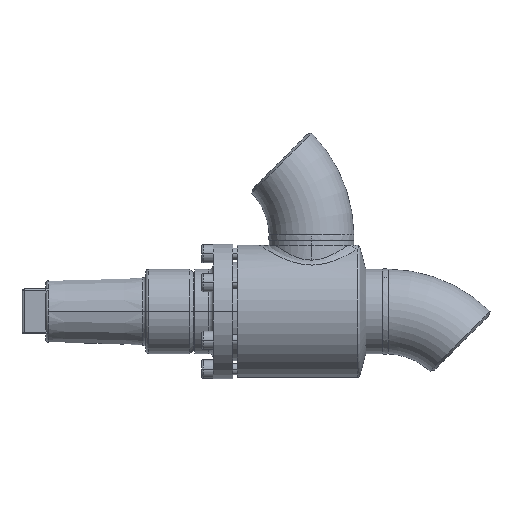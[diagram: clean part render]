
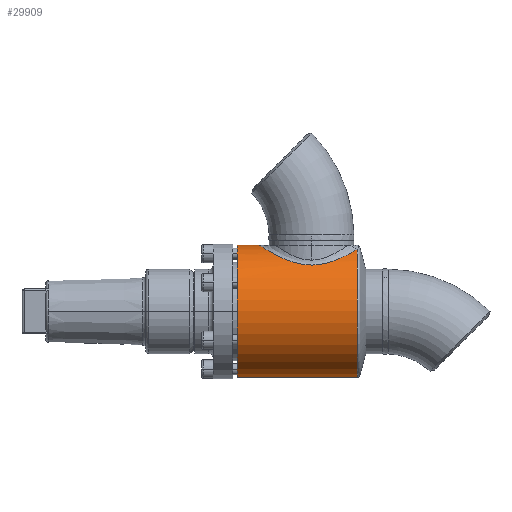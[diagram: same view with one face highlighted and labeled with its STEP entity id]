
A CAD part, left-side view. The second image highlights one B-rep face of the part: STEP entity #29909.
In plain terms, the highlighted cylindrical face has radius 47 mm (diameter 94 mm), a partial arc.
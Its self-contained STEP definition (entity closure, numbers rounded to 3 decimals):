
#33225 = CIRCLE ( 'NONE', #33226, 47. ) ;
#33226 = AXIS2_PLACEMENT_3D ( 'NONE', #33227, #33228, #33229 ) ;
#33227 = CARTESIAN_POINT ( 'NONE',  ( 0., -85.446, 0. ) ) ;
#33228 = DIRECTION ( 'NONE',  ( 0., 1., 0. ) ) ;
#33229 = DIRECTION ( 'NONE',  ( 0., 0., -1. ) ) ;
#33414 = CARTESIAN_POINT ( 'NONE',  ( -16.073, -85.446, 44.166 ) ) ;
#33834 = CARTESIAN_POINT ( 'NONE',  ( 0., -16., 47. ) ) ;
#34036 = LINE ( 'NONE', #34037, #34038 ) ;
#34037 = CARTESIAN_POINT ( 'NONE',  ( 0., -91., 47. ) ) ;
#34038 = VECTOR ( 'NONE', #34039, 1000. ) ;
#34039 = DIRECTION ( 'NONE',  ( 0., 1., 0. ) ) ;
#34150 = CARTESIAN_POINT ( 'NONE',  ( 0., -85.446, -47. ) ) ;
#19542 = EDGE_CURVE ( 'NONE', #4612, #27298, #21054, .T. ) ;
#4105 = EDGE_CURVE ( 'NONE', #31365, #29331, #23596, .T. ) ;
#4612 = VERTEX_POINT ( 'NONE', #33414 ) ;
#21054 = B_SPLINE_CURVE_WITH_KNOTS ( 'NONE', 3,
 ( #21055, #21056, #21057, #21058, #21059, #21060, #21096, #21097, #21098, #21099, #21100, #21101, #21102, #21103, #21104, #21105, #21106, #21107, #21108, #21109, #21110, #21111, #21145, #21146, #21147, #21148, #21149, #21150, #21151, #21152, #21153, #21154, #21155, #21156, #21157, #21158, #21159, #21160, #21193, #21194, #21195, #21196, #21197, #21198, #21199, #21200, #21201, #21202, #21203, #21204, #21205, #21206, #21207, #21208, #21241, #21242, #21243, #21244, #21245, #21246, #21247, #21248 ),
 .UNSPECIFIED., .F., .F.,
 ( 4, 2, 2, 2, 2, 2, 2, 2, 2, 2, 2, 2, 2, 2, 2, 2, 2, 2, 2, 2, 2, 2, 2, 2, 2, 2, 2, 2, 2, 2, 4 ),
 ( 0.017, 0.023, 0.026, 0.029, 0.035, 0.039, 0.04, 0.042, 0.048, 0.051, 0.052, 0.054, 0.06, 0.063, 0.066, 0.069, 0.072, 0.078, 0.081, 0.083, 0.084, 0.09, 0.093, 0.095, 0.096, 0.103, 0.106, 0.107, 0.109, 0.112, 0.115 ),
 .UNSPECIFIED. ) ;
#21055 = CARTESIAN_POINT ( 'NONE',  ( -16.073, -85.446, 44.166 ) ) ;
#21056 = CARTESIAN_POINT ( 'NONE',  ( -17.749, -84.43, 43.556 ) ) ;
#21057 = CARTESIAN_POINT ( 'NONE',  ( -19.293, -83.29, 42.887 ) ) ;
#21058 = CARTESIAN_POINT ( 'NONE',  ( -21.444, -81.41, 41.831 ) ) ;
#21059 = CARTESIAN_POINT ( 'NONE',  ( -22.133, -80.755, 41.469 ) ) ;
#21060 = CARTESIAN_POINT ( 'NONE',  ( -23.459, -79.389, 40.734 ) ) ;
#21096 = CARTESIAN_POINT ( 'NONE',  ( -24.096, -78.676, 40.359 ) ) ;
#21097 = CARTESIAN_POINT ( 'NONE',  ( -25.907, -76.48, 39.24 ) ) ;
#21098 = CARTESIAN_POINT ( 'NONE',  ( -26.989, -74.936, 38.497 ) ) ;
#21099 = CARTESIAN_POINT ( 'NONE',  ( -28.44, -72.491, 37.424 ) ) ;
#21100 = CARTESIAN_POINT ( 'NONE',  ( -28.894, -71.655, 37.073 ) ) ;
#21101 = CARTESIAN_POINT ( 'NONE',  ( -29.533, -70.366, 36.563 ) ) ;
#21102 = CARTESIAN_POINT ( 'NONE',  ( -29.739, -69.93, 36.396 ) ) ;
#21103 = CARTESIAN_POINT ( 'NONE',  ( -30.137, -69.047, 36.067 ) ) ;
#21104 = CARTESIAN_POINT ( 'NONE',  ( -30.328, -68.599, 35.906 ) ) ;
#21105 = CARTESIAN_POINT ( 'NONE',  ( -31.243, -66.344, 35.126 ) ) ;
#21106 = CARTESIAN_POINT ( 'NONE',  ( -31.842, -64.482, 34.576 ) ) ;
#21107 = CARTESIAN_POINT ( 'NONE',  ( -32.541, -61.591, 33.914 ) ) ;
#21108 = CARTESIAN_POINT ( 'NONE',  ( -32.74, -60.61, 33.721 ) ) ;
#21109 = CARTESIAN_POINT ( 'NONE',  ( -32.986, -59.111, 33.48 ) ) ;
#21110 = CARTESIAN_POINT ( 'NONE',  ( -33.059, -58.608, 33.408 ) ) ;
#21111 = CARTESIAN_POINT ( 'NONE',  ( -33.186, -57.603, 33.282 ) ) ;
#21145 = CARTESIAN_POINT ( 'NONE',  ( -33.239, -57.1, 33.229 ) ) ;
#21146 = CARTESIAN_POINT ( 'NONE',  ( -33.462, -54.583, 33.006 ) ) ;
#21147 = CARTESIAN_POINT ( 'NONE',  ( -33.49, -52.562, 32.976 ) ) ;
#21148 = CARTESIAN_POINT ( 'NONE',  ( -33.307, -49.52, 33.161 ) ) ;
#21149 = CARTESIAN_POINT ( 'NONE',  ( -33.207, -48.498, 33.262 ) ) ;
#21150 = CARTESIAN_POINT ( 'NONE',  ( -32.933, -46.49, 33.532 ) ) ;
#21151 = CARTESIAN_POINT ( 'NONE',  ( -32.761, -45.501, 33.702 ) ) ;
#21152 = CARTESIAN_POINT ( 'NONE',  ( -32.346, -43.55, 34.1 ) ) ;
#21153 = CARTESIAN_POINT ( 'NONE',  ( -32.103, -42.587, 34.33 ) ) ;
#21154 = CARTESIAN_POINT ( 'NONE',  ( -31.549, -40.688, 34.839 ) ) ;
#21155 = CARTESIAN_POINT ( 'NONE',  ( -31.237, -39.749, 35.121 ) ) ;
#21156 = CARTESIAN_POINT ( 'NONE',  ( -30.211, -37.009, 36.016 ) ) ;
#21157 = CARTESIAN_POINT ( 'NONE',  ( -29.406, -35.272, 36.683 ) ) ;
#21158 = CARTESIAN_POINT ( 'NONE',  ( -28.021, -32.781, 37.738 ) ) ;
#21159 = CARTESIAN_POINT ( 'NONE',  ( -27.529, -31.97, 38.099 ) ) ;
#21160 = CARTESIAN_POINT ( 'NONE',  ( -26.744, -30.781, 38.65 ) ) ;
#21193 = CARTESIAN_POINT ( 'NONE',  ( -26.475, -30.389, 38.835 ) ) ;
#21194 = CARTESIAN_POINT ( 'NONE',  ( -25.92, -29.615, 39.208 ) ) ;
#21195 = CARTESIAN_POINT ( 'NONE',  ( -25.634, -29.233, 39.396 ) ) ;
#21196 = CARTESIAN_POINT ( 'NONE',  ( -24.175, -27.357, 40.33 ) ) ;
#21197 = CARTESIAN_POINT ( 'NONE',  ( -22.902, -25.964, 41.072 ) ) ;
#21198 = CARTESIAN_POINT ( 'NONE',  ( -20.822, -24.029, 42.143 ) ) ;
#21199 = CARTESIAN_POINT ( 'NONE',  ( -20.099, -23.411, 42.494 ) ) ;
#21200 = CARTESIAN_POINT ( 'NONE',  ( -18.969, -22.523, 43.004 ) ) ;
#21201 = CARTESIAN_POINT ( 'NONE',  ( -18.584, -22.235, 43.172 ) ) ;
#21202 = CARTESIAN_POINT ( 'NONE',  ( -17.798, -21.671, 43.502 ) ) ;
#21203 = CARTESIAN_POINT ( 'NONE',  ( -17.396, -21.396, 43.664 ) ) ;
#21204 = CARTESIAN_POINT ( 'NONE',  ( -15.356, -20.064, 44.455 ) ) ;
#21205 = CARTESIAN_POINT ( 'NONE',  ( -13.635, -19.147, 45.018 ) ) ;
#21206 = CARTESIAN_POINT ( 'NONE',  ( -10.906, -18.006, 45.727 ) ) ;
#21207 = CARTESIAN_POINT ( 'NONE',  ( -9.972, -17.666, 45.94 ) ) ;
#21208 = CARTESIAN_POINT ( 'NONE',  ( -8.53, -17.219, 46.222 ) ) ;
#21241 = CARTESIAN_POINT ( 'NONE',  ( -8.041, -17.081, 46.31 ) ) ;
#21242 = CARTESIAN_POINT ( 'NONE',  ( -7.058, -16.829, 46.47 ) ) ;
#21243 = CARTESIAN_POINT ( 'NONE',  ( -6.563, -16.715, 46.542 ) ) ;
#21244 = CARTESIAN_POINT ( 'NONE',  ( -5.066, -16.41, 46.737 ) ) ;
#21245 = CARTESIAN_POINT ( 'NONE',  ( -4.049, -16.255, 46.836 ) ) ;
#21246 = CARTESIAN_POINT ( 'NONE',  ( -2.024, -16.051, 46.967 ) ) ;
#21247 = CARTESIAN_POINT ( 'NONE',  ( -1.011, -16., 47. ) ) ;
#21248 = CARTESIAN_POINT ( 'NONE',  ( 0., -16., 47. ) ) ;
#21331 = LINE ( 'NONE', #21332, #21333 ) ;
#21332 = CARTESIAN_POINT ( 'NONE',  ( 0., -91., -47. ) ) ;
#21333 = VECTOR ( 'NONE', #21334, 1000. ) ;
#21334 = DIRECTION ( 'NONE',  ( 0., 1., 0. ) ) ;
#23596 = CIRCLE ( 'NONE', #23597, 47. ) ;
#23597 = AXIS2_PLACEMENT_3D ( 'NONE', #23598, #23599, #23600 ) ;
#23598 = CARTESIAN_POINT ( 'NONE',  ( 0., 0., 0. ) ) ;
#23599 = DIRECTION ( 'NONE',  ( 0., 1., 0. ) ) ;
#23600 = DIRECTION ( 'NONE',  ( 0., 0., 1. ) ) ;
#23729 = ORIENTED_EDGE ( 'NONE', *, *, #4105, .F. ) ;
#24986 = ORIENTED_EDGE ( 'NONE', *, *, #27710, .T. ) ;
#9335 = VERTEX_POINT ( 'NONE', #34150 ) ;
#25937 = ORIENTED_EDGE ( 'NONE', *, *, #19542, .T. ) ;
#9827 = CARTESIAN_POINT ( 'NONE',  ( 0., 0., 47. ) ) ;
#10300 = FACE_OUTER_BOUND ( 'NONE', #29469, .T. ) ;
#10301 = CYLINDRICAL_SURFACE ( 'NONE', #10302, 47. ) ;
#10302 = AXIS2_PLACEMENT_3D ( 'NONE', #10303, #10304, #10305 ) ;
#10303 = CARTESIAN_POINT ( 'NONE',  ( 0., -91., 0. ) ) ;
#10304 = DIRECTION ( 'NONE',  ( 0., 1., 0. ) ) ;
#10305 = DIRECTION ( 'NONE',  ( 0., 0., 1. ) ) ;
#26893 = EDGE_CURVE ( 'NONE', #9335, #4612, #33225, .T. ) ;
#27298 = VERTEX_POINT ( 'NONE', #33834 ) ;
#11095 = CARTESIAN_POINT ( 'NONE',  ( 0., 0., -47. ) ) ;
#27570 = ORIENTED_EDGE ( 'NONE', *, *, #26893, .T. ) ;
#27710 = EDGE_CURVE ( 'NONE', #27298, #29331, #34036, .T. ) ;
#28522 = ORIENTED_EDGE ( 'NONE', *, *, #31636, .F. ) ;
#29331 = VERTEX_POINT ( 'NONE', #9827 ) ;
#29469 = EDGE_LOOP ( 'NONE', ( #28522, #27570, #25937, #24986, #23729 ) ) ;
#29909 = ADVANCED_FACE ( 'NONE', ( #10300 ), #10301, .T. ) ;
#31365 = VERTEX_POINT ( 'NONE', #11095 ) ;
#31636 = EDGE_CURVE ( 'NONE', #9335, #31365, #21331, .T. ) ;
